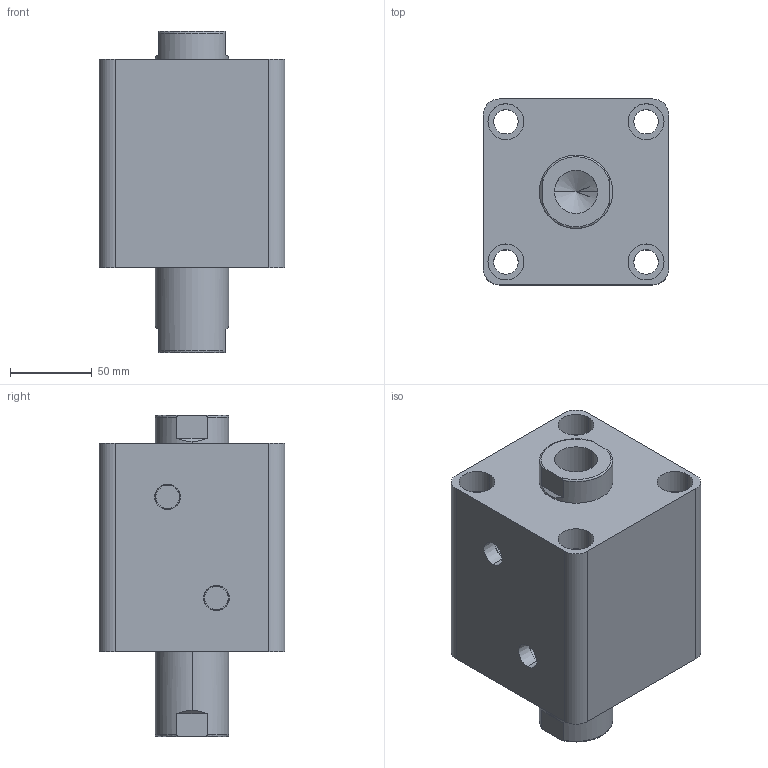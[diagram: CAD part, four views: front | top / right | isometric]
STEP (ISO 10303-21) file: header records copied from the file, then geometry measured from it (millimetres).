
FILE_DESCRIPTION (( 'STEP AP203' ), '1' );
FILE_NAME ('HTB-SW80-35N.STEP', '2019-10-07T10:21:49', ( '微软用户' ), ( '微软中国' ), 'SwSTEP 2.0', 'SolidWorks 2012', '' );
FILE_SCHEMA (( 'CONFIG_CONTROL_DESIGN' ));
Length unit declared in the file: millimetre
Products named in the file (3): HTB-SW80-35N; HTB-SW80-35N活塞杆; HTB-SW80-35掛极
Assembly tree (2 placements, depth 2):
  HTB-SW80-35N
    HTB-SW80-35掛极
    HTB-SW80-35N活塞杆
Bounding box: 114 x 114 x 197 mm (x, y, z)
Volume: 1491022 mm3; surface area: 182973.3 mm2
Topology: 2 solids, 2 shells, 100 faces, 228 edges, 146 vertices
Faces by surface type: cylinder 48, plane 32, torus 12, cone 8
Entity records: 3237 total; most frequent: CARTESIAN_POINT 595, DIRECTION 542, ORIENTED_EDGE 448, AXIS2_PLACEMENT_3D 229, EDGE_CURVE 224, VERTEX_POINT 146, EDGE_LOOP 128, CIRCLE 124
